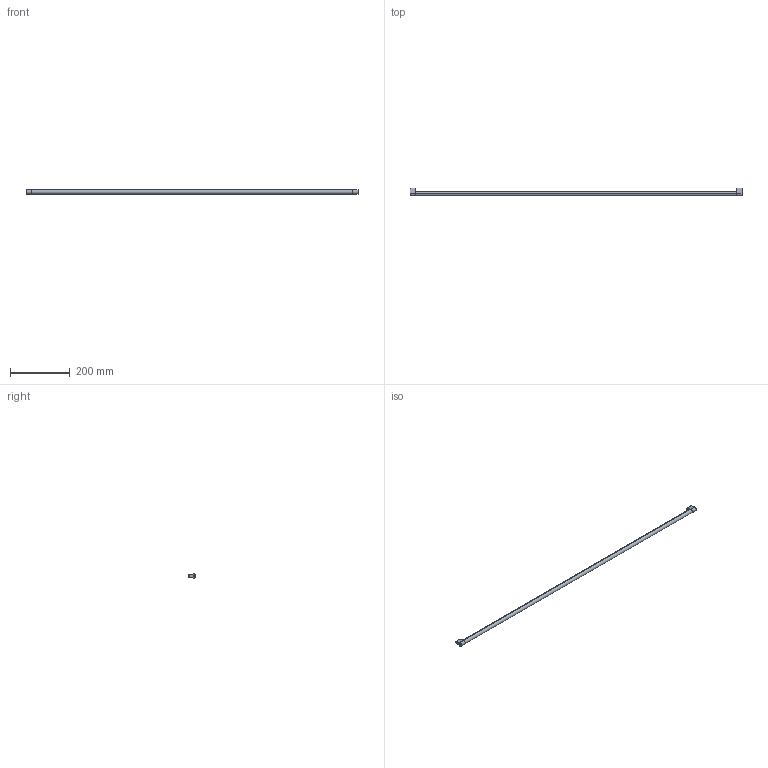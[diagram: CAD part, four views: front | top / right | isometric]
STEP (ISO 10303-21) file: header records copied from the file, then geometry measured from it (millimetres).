
FILE_DESCRIPTION (( 'STEP AP214' ), '1' );
FILE_NAME ('_Synchronisationseinheit Nova Pro KAB1200_S16.step', '2010-07-08T13:58:37', ( 'grass' ), ( '' ), 'SwSTEP 2.0', 'SolidWorks 2010', '' );
FILE_SCHEMA (( 'AUTOMOTIVE_DESIGN' ));
Length unit declared in the file: millimetre
Products named in the file (1): _Synchronisationseinheit Nova Pro KAB1200_S16
Bounding box: 1115 x 26.5 x 14 mm (x, y, z)
Volume: 175327.7 mm3; surface area: 51887.2 mm2
Topology: 3 solids, 3 shells, 36 faces, 78 edges, 52 vertices
Faces by surface type: cylinder 18, plane 18
Entity records: 1050 total; most frequent: DIRECTION 188, CARTESIAN_POINT 167, ORIENTED_EDGE 156, EDGE_CURVE 78, AXIS2_PLACEMENT_3D 73, VERTEX_POINT 52, LINE 42, VECTOR 42
